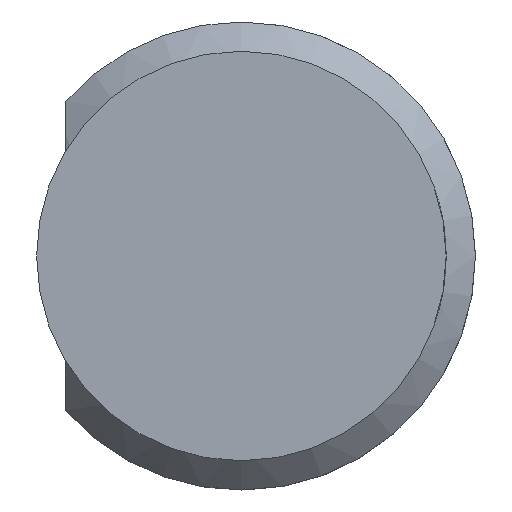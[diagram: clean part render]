
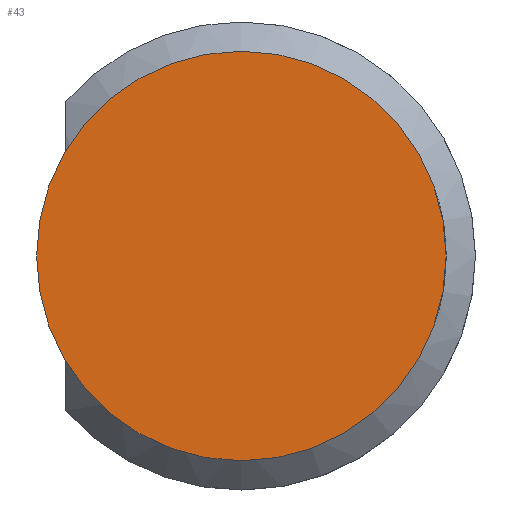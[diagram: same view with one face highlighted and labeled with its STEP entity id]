
A CAD part, left-side view. The second image highlights one B-rep face of the part: STEP entity #43.
In plain terms, the highlighted planar face has unit normal (-1, 0, 0).
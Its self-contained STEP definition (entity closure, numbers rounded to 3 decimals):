
#27=CARTESIAN_POINT('',(-18.,0.,0.));
#28=DIRECTION('',(-1.,0.,0.));
#29=DIRECTION('',(0.,0.,1.));
#30=AXIS2_PLACEMENT_3D('',#27,#28,#29);
#31=PLANE('',#30);
#32=CARTESIAN_POINT('',(-18.,-0.,7.));
#33=VERTEX_POINT('',#32);
#34=CARTESIAN_POINT('',(-18.,0.,0.));
#35=DIRECTION('',(-1.,0.,0.));
#36=DIRECTION('',(0.,0.,1.));
#37=AXIS2_PLACEMENT_3D('',#34,#35,#36);
#38=CIRCLE('',#37,7.);
#39=EDGE_CURVE('',#33,#33,#38,.T.);
#40=ORIENTED_EDGE('',*,*,#39,.T.);
#41=EDGE_LOOP('',(#40));
#42=FACE_BOUND('',#41,.T.);
#43=ADVANCED_FACE('',(#42),#31,.T.);
